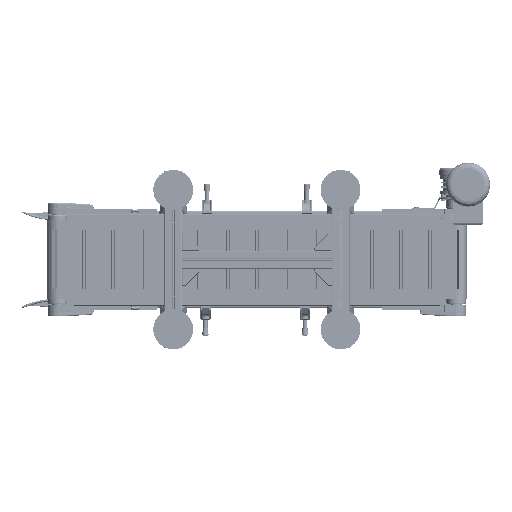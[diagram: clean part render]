
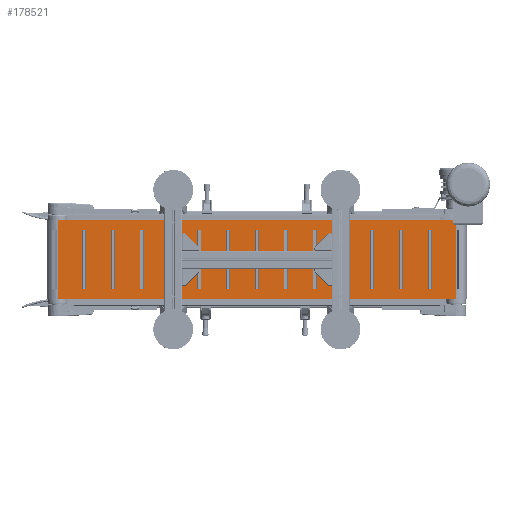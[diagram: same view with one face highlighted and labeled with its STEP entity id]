
A CAD part, front view. The second image highlights one B-rep face of the part: STEP entity #178521.
In plain terms, the highlighted planar face has unit normal (0, -1, 0).
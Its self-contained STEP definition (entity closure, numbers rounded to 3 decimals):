
#218 = DIRECTION ( 'NONE',  ( 0., 0., -1. ) ) ;
#1570 = LINE ( 'NONE', #18972, #147418 ) ;
#18972 = CARTESIAN_POINT ( 'NONE',  ( 500., -27., 100. ) ) ;
#32831 = DIRECTION ( 'NONE',  ( 1., 0., 0. ) ) ;
#34730 = EDGE_CURVE ( 'NONE', #178915, #85137, #1570, .T. ) ;
#35181 = CARTESIAN_POINT ( 'NONE',  ( 500., -27., -100. ) ) ;
#35779 = CARTESIAN_POINT ( 'NONE',  ( -500., -27., 100. ) ) ;
#37853 = ORIENTED_EDGE ( 'NONE', *, *, #120349, .F. ) ;
#52597 = LINE ( 'NONE', #242195, #149820 ) ;
#57427 = VERTEX_POINT ( 'NONE', #158306 ) ;
#63419 = CARTESIAN_POINT ( 'NONE',  ( -500., -27., 100. ) ) ;
#74620 = ORIENTED_EDGE ( 'NONE', *, *, #202392, .T. ) ;
#85137 = VERTEX_POINT ( 'NONE', #35181 ) ;
#114741 = DIRECTION ( 'NONE',  ( 0., 1., 0. ) ) ;
#120349 = EDGE_CURVE ( 'NONE', #207603, #178915, #157585, .T. ) ;
#126744 = EDGE_LOOP ( 'NONE', ( #183490, #180686, #37853, #74620 ) ) ;
#132775 = CARTESIAN_POINT ( 'NONE',  ( -500., -27., 100. ) ) ;
#136547 = DIRECTION ( 'NONE',  ( 1., 0., 0. ) ) ;
#147418 = VECTOR ( 'NONE', #170144, 1000. ) ;
#149820 = VECTOR ( 'NONE', #32831, 1000. ) ;
#157585 = LINE ( 'NONE', #63419, #184704 ) ;
#158306 = CARTESIAN_POINT ( 'NONE',  ( -500., -27., -100. ) ) ;
#170000 = LINE ( 'NONE', #132775, #235400 ) ;
#170144 = DIRECTION ( 'NONE',  ( 0., 0., -1. ) ) ;
#170511 = FACE_OUTER_BOUND ( 'NONE', #126744, .T. ) ;
#178521 = ADVANCED_FACE ( 'NONE', ( #170511 ), #212575, .F. ) ;
#178915 = VERTEX_POINT ( 'NONE', #230591 ) ;
#180686 = ORIENTED_EDGE ( 'NONE', *, *, #34730, .F. ) ;
#183490 = ORIENTED_EDGE ( 'NONE', *, *, #230148, .T. ) ;
#184704 = VECTOR ( 'NONE', #136547, 1000. ) ;
#189136 = DIRECTION ( 'NONE',  ( 0., 0., 1. ) ) ;
#190365 = CARTESIAN_POINT ( 'NONE',  ( -500., -27., 100. ) ) ;
#202392 = EDGE_CURVE ( 'NONE', #207603, #57427, #170000, .T. ) ;
#207603 = VERTEX_POINT ( 'NONE', #35779 ) ;
#212575 = PLANE ( 'NONE',  #228929 ) ;
#228929 = AXIS2_PLACEMENT_3D ( 'NONE', #190365, #114741, #189136 ) ;
#230148 = EDGE_CURVE ( 'NONE', #57427, #85137, #52597, .T. ) ;
#230591 = CARTESIAN_POINT ( 'NONE',  ( 500., -27., 100. ) ) ;
#235400 = VECTOR ( 'NONE', #218, 1000. ) ;
#242195 = CARTESIAN_POINT ( 'NONE',  ( -500., -27., -100. ) ) ;
